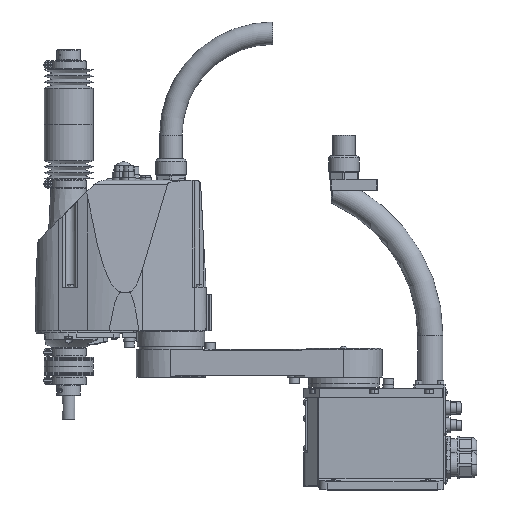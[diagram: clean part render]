
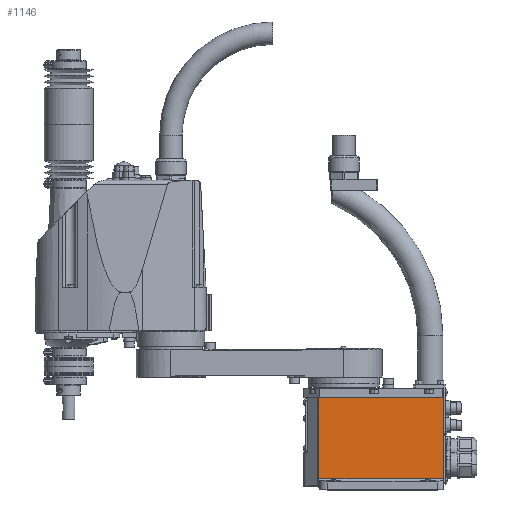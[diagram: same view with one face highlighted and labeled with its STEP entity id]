
A CAD part, top view. The second image highlights one B-rep face of the part: STEP entity #1146.
In plain terms, the highlighted planar face has unit normal (0, 0, 1).
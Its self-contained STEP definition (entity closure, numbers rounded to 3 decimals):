
#1146 = ADVANCED_FACE( '', ( #4055 ), #4056, .T. );
#4055 = FACE_OUTER_BOUND( '', #8484, .T. );
#4056 = PLANE( '', #8485 );
#8484 = EDGE_LOOP( '', ( #17026, #17027, #17028, #17029 ) );
#8485 = AXIS2_PLACEMENT_3D( '', #17030, #17031, #17032 );
#17026 = ORIENTED_EDGE( '', *, *, #29047, .T. );
#17027 = ORIENTED_EDGE( '', *, *, #28919, .T. );
#17028 = ORIENTED_EDGE( '', *, *, #29090, .T. );
#17029 = ORIENTED_EDGE( '', *, *, #28777, .F. );
#17030 = CARTESIAN_POINT( '', ( -51.5, 14., 50.5 ) );
#17031 = DIRECTION( '', ( 0., 0., 1. ) );
#17032 = DIRECTION( '', ( 0., -1., 0. ) );
#28777 = EDGE_CURVE( '', #34650, #34652, #34653, .T. );
#28919 = EDGE_CURVE( '', #34878, #34876, #34879, .T. );
#29047 = EDGE_CURVE( '', #34650, #34878, #35077, .T. );
#29090 = EDGE_CURVE( '', #34876, #34652, #35141, .T. );
#34650 = VERTEX_POINT( '', #43936 );
#34652 = VERTEX_POINT( '', #43938 );
#34653 = LINE( '', #43939, #43940 );
#34876 = VERTEX_POINT( '', #44393 );
#34878 = VERTEX_POINT( '', #44395 );
#34879 = LINE( '', #44396, #44397 );
#35077 = LINE( '', #44782, #44783 );
#35141 = LINE( '', #44904, #44905 );
#43936 = CARTESIAN_POINT( '', ( -31.897, 117., 50.5 ) );
#43938 = CARTESIAN_POINT( '', ( 127., 117., 50.5 ) );
#43939 = CARTESIAN_POINT( '', ( -51.5, 117., 50.5 ) );
#43940 = VECTOR( '', #56960, 1. );
#44393 = CARTESIAN_POINT( '', ( 127., 14., 50.5 ) );
#44395 = CARTESIAN_POINT( '', ( -31.897, 14., 50.5 ) );
#44396 = CARTESIAN_POINT( '', ( -51.5, 14., 50.5 ) );
#44397 = VECTOR( '', #57171, 1. );
#44782 = CARTESIAN_POINT( '', ( -31.897, 65.5, 50.5 ) );
#44783 = VECTOR( '', #57374, 1. );
#44904 = CARTESIAN_POINT( '', ( 127., 117., 50.5 ) );
#44905 = VECTOR( '', #57433, 1. );
#56960 = DIRECTION( '', ( 1., 0., 0. ) );
#57171 = DIRECTION( '', ( 1., 0., 0. ) );
#57374 = DIRECTION( '', ( 0., -1., 0. ) );
#57433 = DIRECTION( '', ( 0., 1., 0. ) );
